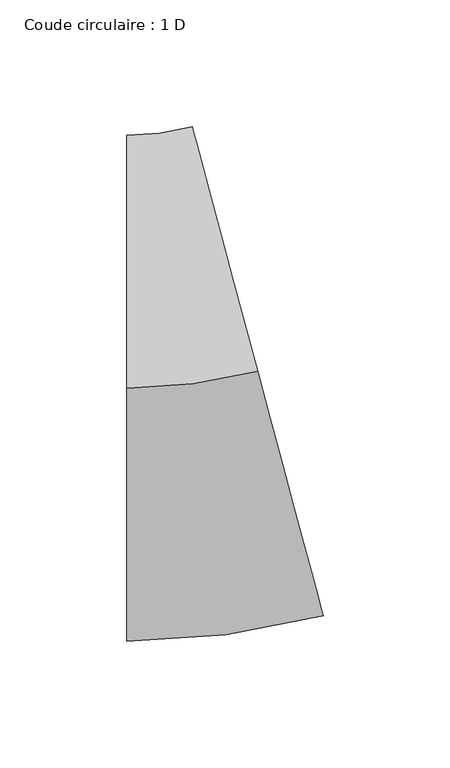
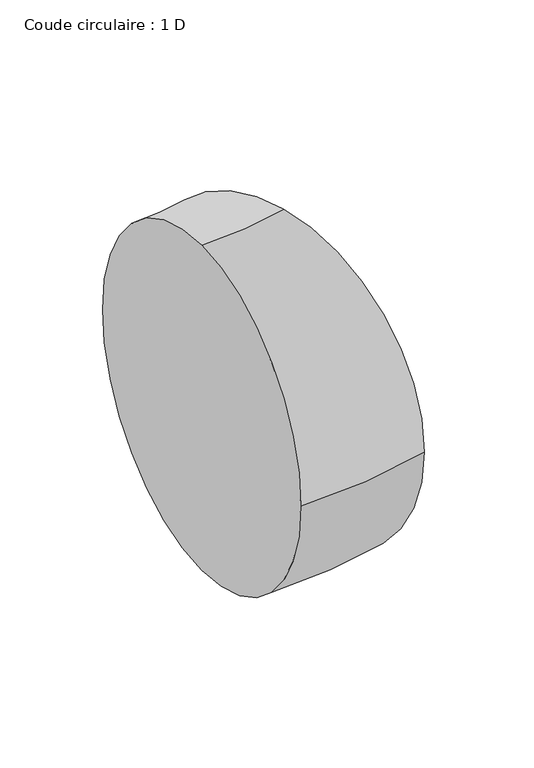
"""IFC4 building model written with IfcOpenShell, lengths in millimetres: duct fitting geometry, Coude circulaire : 1 D."""

from ifc_helpers import new_model, si_unit, point, frame, origin, place, context, project, spatial, circle_curve, ellipse_curve, trimmed, source, transform, mapped, element, save
from ifc_brep_helpers import plane_surface, revolved_surface, advanced_brep


def coude_circulaire_1_d_686486ae(model_context):
    return source(origin(), model_context, "Body", "AdvancedBrep", [
        advanced_brep(
        [(-26.3304995, 0.0, 100.0), (-26.3304995, 100.0, 0.0), (-26.3304995, 0.0, -100.0), (-26.3304995, -100.0, 0.0), (25.4333095, 6.8148347, 100.0), (51.315214, -89.7777479, 0.0), (25.4333095, 6.8148347, -100.0), (-0.448595, 103.4074174, 0.0)],
        [
            (0, 1, circle_curve(frame((-26.3304995, 0.0, 0.0), z_axis=(-1.0, 0.0, 0.0), x_axis=(0.0, 1.0, 0.0)), 100.0)),
            (1, 2, circle_curve(frame((-26.3304995, 0.0, 0.0), z_axis=(-1.0, 0.0, 0.0), x_axis=(0.0, 1.0, 0.0)), 100.0)),
            (2, 3, circle_curve(frame((-26.3304995, 0.0, 0.0), z_axis=(-1.0, 0.0, 0.0), x_axis=(0.0, 1.0, 0.0)), 100.0)),
            (3, 0, circle_curve(frame((-26.3304995, 0.0, 0.0), z_axis=(-1.0, 0.0, 0.0), x_axis=(0.0, 1.0, 0.0)), 100.0)),
            (4, 5, circle_curve(frame((25.4333095, 6.8148347, 0.0), z_axis=(0.965925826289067, 0.25881904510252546, 0.0), x_axis=(-0.25881904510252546, 0.965925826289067, 0.0)), 100.0)),
            (5, 6, circle_curve(frame((25.4333095, 6.8148347, 0.0), z_axis=(0.965925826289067, 0.25881904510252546, 0.0), x_axis=(-0.25881904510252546, 0.965925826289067, 0.0)), 100.0)),
            (6, 7, circle_curve(frame((25.4333095, 6.8148347, 0.0), z_axis=(0.965925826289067, 0.25881904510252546, 0.0), x_axis=(-0.25881904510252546, 0.965925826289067, 0.0)), 100.0)),
            (7, 4, circle_curve(frame((25.4333095, 6.8148347, 0.0), z_axis=(0.965925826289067, 0.25881904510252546, 0.0), x_axis=(-0.25881904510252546, 0.965925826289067, 0.0)), 100.0)),
            (7, 1, circle_curve(frame((-26.3304995, 200.0, 0.0), z_axis=(0.0, 0.0, -1.0), x_axis=(0.0, -1.0, 0.0)), 100.0)),
            (0, 4, circle_curve(frame((-26.3304995, 200.0, 100.0), z_axis=(0.0, 0.0, 1.0), x_axis=(0.0, -1.0, 0.0)), 200.0)),
            (6, 2, circle_curve(frame((-26.3304995, 200.0, -100.0), z_axis=(0.0, 0.0, -1.0), x_axis=(0.0, -1.0, 0.0)), 200.0)),
            (5, 3, circle_curve(frame((-26.3304995, 200.0, 0.0), z_axis=(0.0, 0.0, -1.0), x_axis=(0.0, -1.0, 0.0)), 300.0)),
        ],
        [
            plane_surface(frame((-26.3304995, 0.0, 0.0), z_axis=(-1.0, 0.0, 0.0), x_axis=(0.0, 0.0, 1.0))),
            plane_surface(frame((25.4333095, 6.8148347, 0.0), z_axis=(0.9659258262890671, 0.25881904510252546, 0.0), x_axis=(0.0, 0.0, 1.0))),
            revolved_surface(trimmed(ellipse_curve(frame((-26.3304995, 0.0, 0.0), z_axis=(-1.0, 0.0, 0.0), x_axis=(0.0, 1.0, 0.0)), 100.0, 100.0), [point((-26.3304995, 0.0, 100.0))], [point((-26.3304995, 100.0, 0.0))], True, "CARTESIAN"), (-26.3304995, 200.0, 0.0), (0.0, 0.0, 1.0)),
            revolved_surface(trimmed(ellipse_curve(frame((-26.3304995, 0.0, 0.0), z_axis=(-1.0, 0.0, 0.0), x_axis=(0.0, 1.0, 0.0)), 100.0, 100.0), [point((-26.3304995, 100.0, 0.0))], [point((-26.3304995, 0.0, -100.0))], True, "CARTESIAN"), (-26.3304995, 200.0, 0.0), (0.0, 0.0, 1.0)),
            revolved_surface(trimmed(ellipse_curve(frame((-26.3304995, 0.0, 0.0), z_axis=(-1.0, 0.0, 0.0), x_axis=(0.0, 1.0, 0.0)), 100.0, 100.0), [point((-26.3304995, 0.0, -100.0))], [point((-26.3304995, -100.0, 0.0))], True, "CARTESIAN"), (-26.3304995, 200.0, 0.0), (0.0, 0.0, 1.0)),
            revolved_surface(trimmed(ellipse_curve(frame((-26.3304995, 0.0, 0.0), z_axis=(-1.0, 0.0, 0.0), x_axis=(0.0, 1.0, 0.0)), 100.0, 100.0), [point((-26.3304995, -100.0, 0.0))], [point((-26.3304995, 0.0, 100.0))], True, "CARTESIAN"), (-26.3304995, 200.0, 0.0), (0.0, 0.0, 1.0)),
        ],
        [
            (0, [[1, 2, 3, 4]]),
            (1, [[5, 6, 7, 8]]),
            (2, [[9, -1, 10, -8]]),
            (3, [[11, -2, -9, -7]]),
            (4, [[12, -3, -11, -6]]),
            (5, [[-10, -4, -12, -5]]),
        ],
    ),
    ])


if __name__ == "__main__":
    model = new_model("IFC4")
    model_context = context("Model", 3, world=origin())
    ifc_project = project(units=[si_unit("LENGTHUNIT", "METRE", prefix="MILLI")], contexts=[model_context])
    site = spatial("IfcSite", under=ifc_project)
    building = spatial("IfcBuilding", under=site)
    placement = place(None, origin())
    coude_circulaire_1_d_shape = coude_circulaire_1_d_686486ae(model_context)
    element("IfcDuctFitting", 1, ObjectType="Coude circulaire : 1 D", at=placement, inside=building, context=model_context, shape_type="MappedRepresentation", body=[
        mapped(coude_circulaire_1_d_shape, transform((0.0, 0.0, 0.0), x_axis=(1.0, 0.0, 0.0), y_axis=(0.0, 1.0, 0.0), z_axis=(0.0, 0.0, 1.0))),
    ])
    save(model, "model.ifc")
